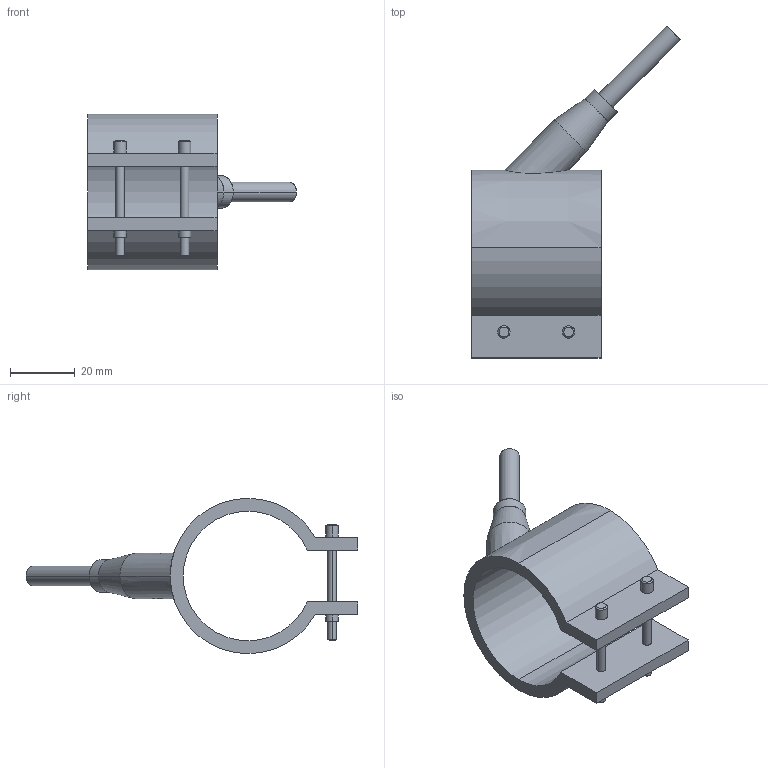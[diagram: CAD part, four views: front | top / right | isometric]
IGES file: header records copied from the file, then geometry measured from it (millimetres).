
Start section: START RECORD GO HERE.
Global section: file name: 29040040.igs; native system: DASSAULT SYSTEMES CATIA V5 R20 - www.3ds.com; preprocessor: CATIA Version 5 Release 20 ; author: Utente; organization: NB04-ASUS; date: 20210327.095607; units: millimetre
Bounding box: 64.55 x 102.55 x 48 mm (x, y, z)
Surface area: 15344.8 mm2 (no closed solid volume)
Topology: 0 solids, 0 shells, 54 faces, 248 edges, 248 vertices
Faces by surface type: revolution 38, plane 16
